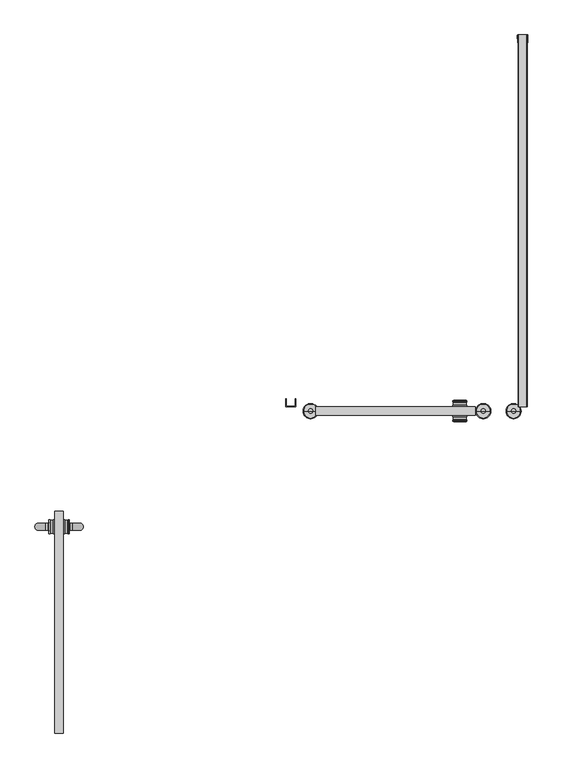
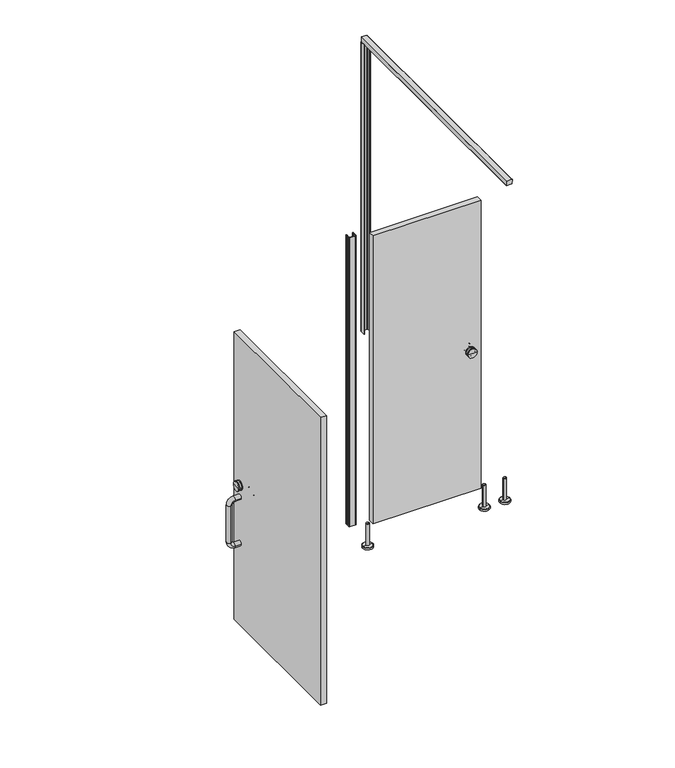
"""IFC4 building model written with IfcOpenShell, lengths in millimetres: proxy geometry, Partition_EuroStyle-Bradley_Corp-ADA_Alcove_2StandardStall-LOFT : Partition_EuroStyle-Bradley_Corp-ADA_Alcove_2StandardStall-LOFT."""

from ifc_helpers import new_model, si_unit, point, frame, frame_2d, origin, place, context, project, spatial, polyline, circle_curve, ellipse_curve, trimmed, segment, composite_curve, outline, extrude, source, transform, mapped, element, save
from ifc_brep_helpers import plane_surface, cylinder_surface, revolved_surface, advanced_brep


def specialty_equipment_a1a55d40(model_context):
    return source(origin(), model_context, "Body", "SolidModel", [
        advanced_brep(
        [(2589.8203255, -1541.9996549, 150.0000008), (2607.8203248, -1541.9996549, 150.0000008), (2607.8203248, -1541.9996549, 12.0000001), (2589.8203255, -1541.9996549, 12.0000001), (2598.8203251, -1541.9996549, 150.0000008), (2567.8203262, -1541.9996549, 0.0), (2629.8203241, -1541.9996549, 0.0), (2598.8203251, -1541.9996549, 0.0), (2567.8203262, -1541.9996549, 10.0000001), (2629.8203241, -1541.9996549, 10.0000001), (2569.8227381, -1541.9996549, 12.0000001), (2627.8179122, -1541.9996549, 12.0000001)],
        [
            (0, 1, circle_curve(frame((2598.8203251, -1541.9996549, 150.0000008), z_axis=(0.0, 0.0, -1.0), x_axis=(1.0, 0.0, 0.0)), 8.9999997)),
            (1, 2),
            (2, 3, circle_curve(frame((2598.8203251, -1541.9996549, 12.0000001), z_axis=(0.0, 0.0, 1.0), x_axis=(1.0, 0.0, 0.0)), 8.9999997)),
            (3, 0),
            (1, 0, circle_curve(frame((2598.8203251, -1541.9996549, 150.0000008), z_axis=(0.0, 0.0, -1.0), x_axis=(1.0, 0.0, 0.0)), 8.9999997)),
            (3, 2, circle_curve(frame((2598.8203251, -1541.9996549, 12.0000001), z_axis=(0.0, 0.0, 1.0), x_axis=(1.0, 0.0, 0.0)), 8.9999997)),
            (4, 1),
            (0, 4),
            (5, 6, circle_curve(frame((2598.8203251, -1541.9996549, 0.0), z_axis=(0.0, 0.0, -1.0), x_axis=(1.0, 0.0, 0.0)), 30.9999989)),
            (6, 7),
            (7, 5),
            (6, 5, circle_curve(frame((2598.8203251, -1541.9996549, 0.0), z_axis=(0.0, 0.0, -1.0), x_axis=(1.0, 0.0, 0.0)), 30.9999989)),
            (8, 9, circle_curve(frame((2598.8203251, -1541.9996549, 10.0000001), z_axis=(0.0, 0.0, -1.0), x_axis=(1.0, 0.0, 0.0)), 30.9999989)),
            (9, 6),
            (5, 8),
            (9, 8, circle_curve(frame((2598.8203251, -1541.9996549, 10.0000001), z_axis=(0.0, 0.0, -1.0), x_axis=(1.0, 0.0, 0.0)), 30.9999989)),
            (10, 11, circle_curve(frame((2598.8203251, -1541.9996549, 12.0000001), z_axis=(0.0, 0.0, -1.0), x_axis=(1.0, 0.0, 0.0)), 28.997587)),
            (11, 9),
            (8, 10),
            (11, 10, circle_curve(frame((2598.8203251, -1541.9996549, 12.0000001), z_axis=(0.0, 0.0, -1.0), x_axis=(1.0, 0.0, 0.0)), 28.997587)),
            (2, 11),
            (10, 3),
        ],
        [
            cylinder_surface(frame((2598.8203251, -1541.9996549, 0.0), z_axis=(0.0, 0.0, 1.0), x_axis=(1.0, 0.0, 0.0)), 8.9999997),
            plane_surface(frame((2598.8203251, -1541.9996549, 150.0000008), z_axis=(0.0, 0.0, 1.0), x_axis=(1.0, 0.0, 0.0))),
            plane_surface(frame((2598.8203251, -1541.9996549, 0.0), z_axis=(0.0, 0.0, -1.0), x_axis=(1.0, 0.0, 0.0))),
            cylinder_surface(frame((2598.8203251, -1541.9996549, 0.0), z_axis=(0.0, 0.0, 1.0), x_axis=(1.0, 0.0, 0.0)), 30.9999989),
            revolved_surface(polyline([(2629.8203241, -1541.9996549, 10.0000001), (2627.8179122, -1541.9996549, 12.0000001)]), (2598.8203251, -1541.9996549, 0.0), (0.0, 0.0, 1.0)),
            plane_surface(frame((2598.8203251, -1541.9996549, 12.0000001), z_axis=(0.0, 0.0, 1.0), x_axis=(1.0, 0.0, 0.0))),
        ],
        [
            (0, [[1, 2, 3, 4]]),
            (0, [[5, -4, 6, -2]]),
            (1, [[7, -1, 8]]),
            (1, [[-8, -5, -7]]),
            (2, [[9, 10, 11]]),
            (2, [[12, -11, -10]]),
            (3, [[13, 14, -9, 15]]),
            (3, [[16, -15, -12, -14]]),
            (4, [[17, 18, -13, 19]]),
            (4, [[20, -19, -16, -18]]),
            (5, [[-3, 21, -17, 22]]),
            (5, [[-6, -22, -20, -21]]),
        ],
    ),
        extrude(outline(composite_curve([segment(polyline([(2497.3288796, -1491.4999998), (2498.8274652, -1491.4999998)]), True, "CONTINUOUS"), segment(trimmed(circle_curve(frame_2d((2498.8238978, -1492.4990918)), 0.9990984), [point((2498.8274652, -1491.4999998))], [point((2499.2975504, -1493.3787798))], False, "CARTESIAN"), True, "CONTINUOUS"), segment(polyline([(2499.2975504, -1493.3787798), (2499.1764404, -1500.6424298)]), True, "CONTINUOUS"), segment(trimmed(circle_curve(frame_2d((2498.6588945, -1501.4999449)), 1.0015917), [point((2499.1764404, -1500.6424298))], [point((2499.1475604, -1502.3742398))], False, "CARTESIAN"), True, "CONTINUOUS"), segment(polyline([(2499.1475604, -1502.3742398), (2498.8535049, -1520.0104531)]), True, "CONTINUOUS"), segment(trimmed(circle_curve(frame_2d((2500.8536968, -1519.9997796)), 2.0002204), [point((2498.8535049, -1520.0104531))], [point((2500.8536968, -1522.0))], True, "CARTESIAN"), True, "CONTINUOUS"), segment(polyline([(2500.8536968, -1522.0), (2534.7379958, -1522.0)]), True, "CONTINUOUS"), segment(trimmed(circle_curve(frame_2d((2534.7870154, -1520.0009061)), 1.9996948), [point((2534.7379958, -1522.0))], [point((2536.78671, -1520.0))], True, "CARTESIAN"), True, "CONTINUOUS"), segment(polyline([(2536.78671, -1520.0), (2536.4926587, -1502.3739987)]), True, "CONTINUOUS"), segment(trimmed(circle_curve(frame_2d((2536.9817558, -1501.4999449)), 1.0015917), [point((2536.4926587, -1502.3739987))], [point((2536.4642099, -1500.6424298))], False, "CARTESIAN"), True, "CONTINUOUS"), segment(polyline([(2536.4642099, -1500.6424298), (2536.3430999, -1493.3787798)]), True, "CONTINUOUS"), segment(trimmed(circle_curve(frame_2d((2536.8167525, -1492.4990918)), 0.9990984), [point((2536.3430999, -1493.3787798))], [point((2536.8131851, -1491.4999998))], False, "CARTESIAN"), True, "CONTINUOUS"), segment(polyline([(2536.8131851, -1491.4999998), (2538.3117707, -1491.4999998), (2538.8201098, -1521.97082)]), True, "CONTINUOUS"), segment(trimmed(circle_curve(frame_2d((2536.7909298, -1521.97082)), 2.02918), [point((2538.8201098, -1521.97082))], [point((2536.7909298, -1524.0))], False, "CARTESIAN"), True, "CONTINUOUS"), segment(polyline([(2536.7909298, -1524.0), (2498.8497205, -1524.0)]), True, "CONTINUOUS"), segment(trimmed(circle_curve(frame_2d((2498.8497205, -1521.97082)), 2.02918), [point((2498.8497205, -1524.0))], [point((2496.8205405, -1521.97082))], False, "CARTESIAN"), True, "CONTINUOUS"), segment(polyline([(2496.8205405, -1521.97082), (2497.3288796, -1491.4999998)]), True, "CONTINUOUS")], self_intersect=False)), frame((0.0, 0.0, 150.0), z_axis=(0.0, 0.0, 1.0), x_axis=(1.0, 0.0, 0.0)), (0.0, 0.0, 1.0), 1855.0),
        advanced_brep(
        [(3182.3471564, -1524.0098174, 1050.0), (3239.4971564, -1524.0098174, 1050.0), (3210.9221564, -1524.0098174, 1050.0), (3182.3471564, -1519.2473174, 1050.0), (3239.4971564, -1519.2473174, 1050.0), (3182.3471564, -1500.1973174, 1050.0), (3239.4971564, -1500.1973174, 1050.0), (3239.4971564, -1504.9598174, 1050.0), (3182.3471564, -1504.9598174, 1050.0), (3237.9096564, -1506.5473174, 1050.0), (3183.9346564, -1506.5473174, 1050.0), (3237.9096564, -1517.6598174, 1050.0), (3183.9346564, -1517.6598174, 1050.0), (3210.9221564, -1498.6098174, 1050.0)],
        [
            (0, 1, circle_curve(frame((3210.9221564, -1524.0098174, 1050.0), z_axis=(0.0, -1.0, 0.0), x_axis=(1.0000000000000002, 0.0, 0.0)), 28.575)),
            (1, 2),
            (2, 0),
            (1, 0, circle_curve(frame((3210.9221564, -1524.0098174, 1050.0), z_axis=(0.0, -1.0, 0.0), x_axis=(1.0000000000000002, 0.0, 0.0)), 28.575)),
            (3, 4, circle_curve(frame((3210.9221564, -1519.2473174, 1050.0), z_axis=(0.0, -1.0, 0.0), x_axis=(1.0000000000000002, 0.0, 0.0)), 28.575)),
            (4, 1),
            (0, 3),
            (4, 3, circle_curve(frame((3210.9221564, -1519.2473174, 1050.0), z_axis=(0.0, -1.0, 0.0), x_axis=(1.0000000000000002, 0.0, 0.0)), 28.575)),
            (5, 6, circle_curve(frame((3210.9221564, -1500.1973174, 1050.0), z_axis=(0.0, -1.0, 0.0), x_axis=(1.0000000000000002, 0.0, 0.0)), 28.575)),
            (6, 7),
            (7, 8, circle_curve(frame((3210.9221564, -1504.9598174, 1050.0), z_axis=(0.0, 1.0, 0.0), x_axis=(1.0000000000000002, 0.0, 0.0)), 28.575)),
            (8, 5),
            (6, 5, circle_curve(frame((3210.9221564, -1500.1973174, 1050.0), z_axis=(0.0, -1.0, 0.0), x_axis=(1.0000000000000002, 0.0, 0.0)), 28.575)),
            (8, 7, circle_curve(frame((3210.9221564, -1504.9598174, 1050.0), z_axis=(0.0, 1.0, 0.0), x_axis=(1.0000000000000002, 0.0, 0.0)), 28.575)),
            (7, 9, circle_curve(frame((3239.4971564, -1506.5473174, 1050.0), z_axis=(0.0, 0.0, 1.0), x_axis=(1.0000000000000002, 0.0, 0.0)), 1.5875)),
            (9, 10, circle_curve(frame((3210.9221564, -1506.5473174, 1050.0), z_axis=(0.0, 1.0, 0.0), x_axis=(1.0000000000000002, 0.0, 0.0)), 26.9875)),
            (10, 8, circle_curve(frame((3182.3471564, -1506.5473174, 1050.0), z_axis=(0.0, 0.0, 1.0), x_axis=(-1.0000000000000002, 0.0, 0.0)), 1.5875)),
            (10, 9, circle_curve(frame((3210.9221564, -1506.5473174, 1050.0), z_axis=(0.0, 1.0, 0.0), x_axis=(1.0000000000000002, 0.0, 0.0)), 26.9875)),
            (9, 11),
            (11, 12, circle_curve(frame((3210.9221564, -1517.6598174, 1050.0), z_axis=(0.0, 1.0, 0.0), x_axis=(1.0000000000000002, 0.0, 0.0)), 26.9875)),
            (12, 10),
            (12, 11, circle_curve(frame((3210.9221564, -1517.6598174, 1050.0), z_axis=(0.0, 1.0, 0.0), x_axis=(1.0000000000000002, 0.0, 0.0)), 26.9875)),
            (11, 4, circle_curve(frame((3239.4971564, -1517.6598174, 1050.0), z_axis=(0.0, 0.0, 1.0), x_axis=(1.0000000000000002, 0.0, 0.0)), 1.5875)),
            (3, 12, circle_curve(frame((3182.3471564, -1517.6598174, 1050.0), z_axis=(0.0, 0.0, 1.0), x_axis=(-1.0000000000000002, 0.0, 0.0)), 1.5875)),
            (13, 6, circle_curve(frame((3214.6162798, -1690.0843466, 1050.0), z_axis=(0.0, 0.0, -1.0), x_axis=(1.0000000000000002, 0.0, 0.0)), 191.5101613)),
            (5, 13, circle_curve(frame((3207.2280331, -1690.0843466, 1050.0), z_axis=(0.0, 0.0, -1.0), x_axis=(-1.0000000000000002, 0.0, 0.0)), 191.5101613)),
        ],
        [
            plane_surface(frame((3210.9221564, -1524.0098174, 1050.0), z_axis=(0.0, -1.0, 0.0), x_axis=(1.0, 0.0, 0.0))),
            cylinder_surface(frame((3210.9221564, -1524.0098174, 1050.0), z_axis=(0.0, 1.0000000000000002, 0.0), x_axis=(1.0000000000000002, 0.0, 0.0)), 28.575),
            revolved_surface(trimmed(ellipse_curve(frame((3239.4971564, -1506.5473174, 1050.0), z_axis=(0.0, 0.0, -1.0), x_axis=(1.0000000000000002, 0.0, 0.0)), 1.5875, 1.5875), [point((3237.9096564, -1506.5473174, 1050.0))], [point((3239.4971564, -1504.9598174, 1050.0))], True, "CARTESIAN"), (3210.9221564, -1524.0098174, 1050.0), (0.0, 1.0000000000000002, 0.0)),
            cylinder_surface(frame((3210.9221564, -1524.0098174, 1050.0), z_axis=(0.0, 1.0000000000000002, 0.0), x_axis=(1.0000000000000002, 0.0, 0.0)), 26.9875),
            revolved_surface(trimmed(ellipse_curve(frame((3239.4971564, -1517.6598174, 1050.0), z_axis=(0.0, 0.0, -1.0), x_axis=(1.0000000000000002, 0.0, 0.0)), 1.5875, 1.5875), [point((3239.4971564, -1519.2473174, 1050.0))], [point((3237.9096564, -1517.6598174, 1050.0))], True, "CARTESIAN"), (3210.9221564, -1524.0098174, 1050.0), (0.0, 1.0000000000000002, 0.0)),
            revolved_surface(trimmed(ellipse_curve(frame((3214.6162798, -1690.0843466, 1050.0), z_axis=(0.0, 0.0, 1.0), x_axis=(1.0000000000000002, 0.0, 0.0)), 191.5101613, 191.5101613), [point((3239.4971564, -1500.1973174, 1050.0))], [point((3210.9221564, -1498.6098174, 1050.0))], True, "CARTESIAN"), (3210.9221564, -1524.0098174, 1050.0), (0.0, 1.0000000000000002, 0.0)),
        ],
        [
            (0, [[1, 2, 3]]),
            (0, [[4, -3, -2]]),
            (1, [[5, 6, -1, 7]]),
            (1, [[8, -7, -4, -6]]),
            (1, [[9, 10, 11, 12]]),
            (1, [[13, -12, 14, -10]]),
            (2, [[-11, 15, 16, 17]]),
            (2, [[-14, -17, 18, -15]]),
            (3, [[-16, 19, 20, 21]]),
            (3, [[-18, -21, 22, -19]]),
            (4, [[-20, 23, -5, 24]]),
            (4, [[-22, -24, -8, -23]]),
            (5, [[25, -9, 26]]),
            (5, [[-26, -13, -25]]),
        ],
    ),
        advanced_brep(
        [(3210.9221564, -1560.0098174, 1050.0), (3239.4971564, -1560.0098174, 1050.0), (3182.3471564, -1560.0098174, 1050.0), (3239.4971564, -1564.7723174, 1050.0), (3182.3471564, -1564.7723174, 1050.0), (3182.3471564, -1579.0598174, 1050.0), (3239.4971564, -1579.0598174, 1050.0), (3239.4971564, -1583.8223174, 1050.0), (3182.3471564, -1583.8223174, 1050.0), (3183.9346564, -1577.4723174, 1050.0), (3237.9096564, -1577.4723174, 1050.0), (3183.9346564, -1566.3598174, 1050.0), (3237.9096564, -1566.3598174, 1050.0), (3210.9221564, -1585.4098174, 1050.0)],
        [
            (0, 1),
            (1, 2, circle_curve(frame((3210.9221564, -1560.0098174, 1050.0), z_axis=(0.0, 1.0, 0.0), x_axis=(1.0000000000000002, 0.0, 0.0)), 28.575)),
            (2, 0),
            (2, 1, circle_curve(frame((3210.9221564, -1560.0098174, 1050.0), z_axis=(0.0, 1.0, 0.0), x_axis=(1.0000000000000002, 0.0, 0.0)), 28.575)),
            (1, 3),
            (3, 4, circle_curve(frame((3210.9221564, -1564.7723174, 1050.0), z_axis=(0.0, 1.0, 0.0), x_axis=(1.0000000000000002, 0.0, 0.0)), 28.575)),
            (4, 2),
            (4, 3, circle_curve(frame((3210.9221564, -1564.7723174, 1050.0), z_axis=(0.0, 1.0, 0.0), x_axis=(1.0000000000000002, 0.0, 0.0)), 28.575)),
            (5, 6, circle_curve(frame((3210.9221564, -1579.0598174, 1050.0), z_axis=(0.0, -1.0, 0.0), x_axis=(1.0000000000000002, 0.0, 0.0)), 28.575)),
            (6, 7),
            (7, 8, circle_curve(frame((3210.9221564, -1583.8223174, 1050.0), z_axis=(0.0, 1.0, 0.0), x_axis=(1.0000000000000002, 0.0, 0.0)), 28.575)),
            (8, 5),
            (6, 5, circle_curve(frame((3210.9221564, -1579.0598174, 1050.0), z_axis=(0.0, -1.0, 0.0), x_axis=(1.0000000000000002, 0.0, 0.0)), 28.575)),
            (8, 7, circle_curve(frame((3210.9221564, -1583.8223174, 1050.0), z_axis=(0.0, 1.0, 0.0), x_axis=(1.0000000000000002, 0.0, 0.0)), 28.575)),
            (9, 10, circle_curve(frame((3210.9221564, -1577.4723174, 1050.0), z_axis=(0.0, -1.0, 0.0), x_axis=(1.0000000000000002, 0.0, 0.0)), 26.9875)),
            (10, 6, circle_curve(frame((3239.4971564, -1577.4723174, 1050.0), z_axis=(0.0, 0.0, 1.0), x_axis=(1.0000000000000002, 0.0, 0.0)), 1.5875)),
            (5, 9, circle_curve(frame((3182.3471564, -1577.4723174, 1050.0), z_axis=(0.0, 0.0, 1.0), x_axis=(-1.0000000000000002, 0.0, 0.0)), 1.5875)),
            (10, 9, circle_curve(frame((3210.9221564, -1577.4723174, 1050.0), z_axis=(0.0, -1.0, 0.0), x_axis=(1.0000000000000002, 0.0, 0.0)), 26.9875)),
            (11, 12, circle_curve(frame((3210.9221564, -1566.3598174, 1050.0), z_axis=(0.0, -1.0, 0.0), x_axis=(1.0000000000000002, 0.0, 0.0)), 26.9875)),
            (12, 10),
            (9, 11),
            (12, 11, circle_curve(frame((3210.9221564, -1566.3598174, 1050.0), z_axis=(0.0, -1.0, 0.0), x_axis=(1.0000000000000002, 0.0, 0.0)), 26.9875)),
            (3, 12, circle_curve(frame((3239.4971564, -1566.3598174, 1050.0), z_axis=(0.0, 0.0, 1.0), x_axis=(1.0000000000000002, 0.0, 0.0)), 1.5875)),
            (11, 4, circle_curve(frame((3182.3471564, -1566.3598174, 1050.0), z_axis=(0.0, 0.0, 1.0), x_axis=(-1.0000000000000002, 0.0, 0.0)), 1.5875)),
            (7, 13, circle_curve(frame((3214.6162798, -1393.9352882, 1050.0), z_axis=(0.0, 0.0, -1.0), x_axis=(1.0000000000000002, 0.0, 0.0)), 191.5101613)),
            (13, 8, circle_curve(frame((3207.2280331, -1393.9352882, 1050.0), z_axis=(0.0, 0.0, -1.0), x_axis=(-1.0000000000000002, 0.0, 0.0)), 191.5101613)),
        ],
        [
            plane_surface(frame((3210.9221564, -1560.0098174, 1050.0), z_axis=(0.0, 1.0, 0.0), x_axis=(1.0, 0.0, 0.0))),
            cylinder_surface(frame((3210.9221564, -1560.0098174, 1050.0), z_axis=(0.0, 1.0000000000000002, 0.0), x_axis=(1.0000000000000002, 0.0, 0.0)), 28.575),
            revolved_surface(trimmed(ellipse_curve(frame((3239.4971564, -1577.4723174, 1050.0), z_axis=(0.0, 0.0, -1.0), x_axis=(1.0000000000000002, 0.0, 0.0)), 1.5875, 1.5875), [point((3239.4971564, -1579.0598174, 1050.0))], [point((3237.9096564, -1577.4723174, 1050.0))], True, "CARTESIAN"), (3210.9221564, -1560.0098174, 1050.0), (0.0, 1.0000000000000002, 0.0)),
            cylinder_surface(frame((3210.9221564, -1560.0098174, 1050.0), z_axis=(0.0, 1.0000000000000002, 0.0), x_axis=(1.0000000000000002, 0.0, 0.0)), 26.9875),
            revolved_surface(trimmed(ellipse_curve(frame((3239.4971564, -1566.3598174, 1050.0), z_axis=(0.0, 0.0, -1.0), x_axis=(1.0000000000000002, 0.0, 0.0)), 1.5875, 1.5875), [point((3237.9096564, -1566.3598174, 1050.0))], [point((3239.4971564, -1564.7723174, 1050.0))], True, "CARTESIAN"), (3210.9221564, -1560.0098174, 1050.0), (0.0, 1.0000000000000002, 0.0)),
            revolved_surface(trimmed(ellipse_curve(frame((3214.6162798, -1393.9352882, 1050.0), z_axis=(0.0, 0.0, 1.0), x_axis=(1.0000000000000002, 0.0, 0.0)), 191.5101613, 191.5101613), [point((3210.9221564, -1585.4098174, 1050.0))], [point((3239.4971564, -1583.8223174, 1050.0))], True, "CARTESIAN"), (3210.9221564, -1560.0098174, 1050.0), (0.0, 1.0000000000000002, 0.0)),
        ],
        [
            (0, [[1, 2, 3]]),
            (0, [[-3, 4, -1]]),
            (1, [[-2, 5, 6, 7]]),
            (1, [[-4, -7, 8, -5]]),
            (1, [[9, 10, 11, 12]]),
            (1, [[13, -12, 14, -10]]),
            (2, [[15, 16, -9, 17]]),
            (2, [[18, -17, -13, -16]]),
            (3, [[19, 20, -15, 21]]),
            (3, [[22, -21, -18, -20]]),
            (4, [[-6, 23, -19, 24]]),
            (4, [[-8, -24, -22, -23]]),
            (5, [[-11, 25, 26]]),
            (5, [[-14, -26, -25]]),
        ],
    ),
        extrude(outline(polyline([(2619.3190701, -1523.9894923), (3274.4221564, -1523.9894923), (3274.4221564, -1560.0098174), (2619.3190701, -1560.0098174), (2619.3190701, -1523.9894923)])), frame((0.0, 0.0, 150.0), z_axis=(0.0, 0.0, 1.0), x_axis=(1.0, 0.0, 0.0)), (0.0, 0.0, 1.0), 1846.0),
        extrude(outline(composite_curve([segment(polyline([(3447.7288796, -32.5000002), (3447.2205405, -2.02918)]), True, "CONTINUOUS"), segment(trimmed(circle_curve(frame_2d((3449.2497205, -2.02918)), 2.02918), [point((3447.2205405, -2.02918))], [point((3449.2497205, 0.0))], False, "CARTESIAN"), True, "CONTINUOUS"), segment(polyline([(3449.2497205, 0.0), (3487.1909298, 0.0)]), True, "CONTINUOUS"), segment(trimmed(circle_curve(frame_2d((3487.1909298, -2.02918)), 2.02918), [point((3487.1909298, 0.0))], [point((3489.2201098, -2.02918))], False, "CARTESIAN"), True, "CONTINUOUS"), segment(polyline([(3489.2201098, -2.02918), (3488.7117707, -32.5000002), (3487.2131851, -32.5000002)]), True, "CONTINUOUS"), segment(trimmed(circle_curve(frame_2d((3487.2167525, -31.5009082)), 0.9990984), [point((3487.2131851, -32.5000002))], [point((3486.7430999, -30.6212202))], False, "CARTESIAN"), True, "CONTINUOUS"), segment(polyline([(3486.7430999, -30.6212202), (3486.8642099, -23.3575702)]), True, "CONTINUOUS"), segment(trimmed(circle_curve(frame_2d((3487.3817558, -22.5000551)), 1.0015917), [point((3486.8642099, -23.3575702))], [point((3486.8926587, -21.6260013))], False, "CARTESIAN"), True, "CONTINUOUS"), segment(polyline([(3486.8926587, -21.6260013), (3487.18671, -4.0)]), True, "CONTINUOUS"), segment(trimmed(circle_curve(frame_2d((3485.1870154, -3.9990939)), 1.9996948), [point((3487.18671, -4.0))], [point((3485.1379958, -2.0))], True, "CARTESIAN"), True, "CONTINUOUS"), segment(polyline([(3485.1379958, -2.0), (3451.2536968, -2.0)]), True, "CONTINUOUS"), segment(trimmed(circle_curve(frame_2d((3451.2536968, -4.0002204)), 2.0002204), [point((3451.2536968, -2.0))], [point((3449.2535049, -3.9895469))], True, "CARTESIAN"), True, "CONTINUOUS"), segment(polyline([(3449.2535049, -3.9895469), (3449.5475604, -21.6257602)]), True, "CONTINUOUS"), segment(trimmed(circle_curve(frame_2d((3449.0588945, -22.5000551)), 1.0015917), [point((3449.5475604, -21.6257602))], [point((3449.5764404, -23.3575702))], False, "CARTESIAN"), True, "CONTINUOUS"), segment(polyline([(3449.5764404, -23.3575702), (3449.6975504, -30.6212202)]), True, "CONTINUOUS"), segment(trimmed(circle_curve(frame_2d((3449.2238978, -31.5009082)), 0.9990984), [point((3449.6975504, -30.6212202))], [point((3449.2274652, -32.5000002))], False, "CARTESIAN"), True, "CONTINUOUS"), segment(polyline([(3449.2274652, -32.5000002), (3447.7288796, -32.5000002)]), True, "CONTINUOUS")], self_intersect=False)), frame((0.0, 0.0, 150.0), z_axis=(0.0, 0.0, 1.0), x_axis=(1.0, 0.0, 0.0)), (0.0, 0.0, 1.0), 1855.0),
        extrude(outline(composite_curve([segment(polyline([(2032.9666591, 3450.2203701), (2005.7492965, 3450.6741806)]), True, "CONTINUOUS"), segment(trimmed(circle_curve(frame_2d((2005.762, 3451.4360747)), 0.762), [point((2005.7492965, 3450.6741806))], [point((2005.0, 3451.4360747))], False, "CARTESIAN"), True, "CONTINUOUS"), segment(polyline([(2005.0, 3451.4360747), (2005.0, 3484.9733505)]), True, "CONTINUOUS"), segment(trimmed(circle_curve(frame_2d((2005.79375, 3484.9733505)), 0.79375), [point((2005.0, 3484.9733505))], [point((2005.7805172, 3485.7669902))], False, "CARTESIAN"), True, "CONTINUOUS"), segment(polyline([(2005.7805172, 3485.7669902), (2032.9666591, 3486.2202802)]), True, "CONTINUOUS"), segment(trimmed(circle_curve(frame_2d((2033.0000015, 3484.2205597)), 1.9999985), [point((2032.9666591, 3486.2202802))], [point((2035.0, 3484.2205597))], False, "CARTESIAN"), True, "CONTINUOUS"), segment(polyline([(2035.0, 3484.2205597), (2035.0, 3452.2200907)]), True, "CONTINUOUS"), segment(trimmed(circle_curve(frame_2d((2033.0000015, 3452.2200907)), 1.9999985), [point((2035.0, 3452.2200907))], [point((2032.9666591, 3450.2203701))], False, "CARTESIAN"), True, "CONTINUOUS")], self_intersect=False)), frame((0.0, -1524.0, 0.0), z_axis=(0.0, 1.0, 0.0), x_axis=(0.0, 0.0, 1.0)), (0.0, 0.0, 1.0), 1524.0),
        advanced_brep(
        [(3422.1703255, -1541.9996549, 150.0000008), (3440.1703248, -1541.9996549, 150.0000008), (3440.1703248, -1541.9996549, 12.0000001), (3422.1703255, -1541.9996549, 12.0000001), (3431.1703251, -1541.9996549, 150.0000008), (3400.1703262, -1541.9996549, 0.0), (3462.1703241, -1541.9996549, 0.0), (3431.1703251, -1541.9996549, 0.0), (3400.1703262, -1541.9996549, 10.0000001), (3462.1703241, -1541.9996549, 10.0000001), (3402.1727381, -1541.9996549, 12.0000001), (3460.1679122, -1541.9996549, 12.0000001)],
        [
            (0, 1, circle_curve(frame((3431.1703251, -1541.9996549, 150.0000008), z_axis=(0.0, 0.0, -1.0), x_axis=(1.0, 0.0, 0.0)), 8.9999997)),
            (1, 2),
            (2, 3, circle_curve(frame((3431.1703251, -1541.9996549, 12.0000001), z_axis=(0.0, 0.0, 1.0), x_axis=(1.0, 0.0, 0.0)), 8.9999997)),
            (3, 0),
            (1, 0, circle_curve(frame((3431.1703251, -1541.9996549, 150.0000008), z_axis=(0.0, 0.0, -1.0), x_axis=(1.0, 0.0, 0.0)), 8.9999997)),
            (3, 2, circle_curve(frame((3431.1703251, -1541.9996549, 12.0000001), z_axis=(0.0, 0.0, 1.0), x_axis=(1.0, 0.0, 0.0)), 8.9999997)),
            (4, 1),
            (0, 4),
            (5, 6, circle_curve(frame((3431.1703251, -1541.9996549, 0.0), z_axis=(0.0, 0.0, -1.0), x_axis=(1.0, 0.0, 0.0)), 30.9999989)),
            (6, 7),
            (7, 5),
            (6, 5, circle_curve(frame((3431.1703251, -1541.9996549, 0.0), z_axis=(0.0, 0.0, -1.0), x_axis=(1.0, 0.0, 0.0)), 30.9999989)),
            (8, 9, circle_curve(frame((3431.1703251, -1541.9996549, 10.0000001), z_axis=(0.0, 0.0, -1.0), x_axis=(1.0, 0.0, 0.0)), 30.9999989)),
            (9, 6),
            (5, 8),
            (9, 8, circle_curve(frame((3431.1703251, -1541.9996549, 10.0000001), z_axis=(0.0, 0.0, -1.0), x_axis=(1.0, 0.0, 0.0)), 30.9999989)),
            (10, 11, circle_curve(frame((3431.1703251, -1541.9996549, 12.0000001), z_axis=(0.0, 0.0, -1.0), x_axis=(1.0, 0.0, 0.0)), 28.997587)),
            (11, 9),
            (8, 10),
            (11, 10, circle_curve(frame((3431.1703251, -1541.9996549, 12.0000001), z_axis=(0.0, 0.0, -1.0), x_axis=(1.0, 0.0, 0.0)), 28.997587)),
            (2, 11),
            (10, 3),
        ],
        [
            cylinder_surface(frame((3431.1703251, -1541.9996549, 0.0), z_axis=(0.0, 0.0, 1.0), x_axis=(1.0, 0.0, 0.0)), 8.9999997),
            plane_surface(frame((3431.1703251, -1541.9996549, 150.0000008), z_axis=(0.0, 0.0, 1.0), x_axis=(1.0, 0.0, 0.0))),
            plane_surface(frame((3431.1703251, -1541.9996549, 0.0), z_axis=(0.0, 0.0, -1.0), x_axis=(1.0, 0.0, 0.0))),
            cylinder_surface(frame((3431.1703251, -1541.9996549, 0.0), z_axis=(0.0, 0.0, 1.0), x_axis=(1.0, 0.0, 0.0)), 30.9999989),
            revolved_surface(polyline([(3462.1703241, -1541.9996549, 10.0000001), (3460.1679122, -1541.9996549, 12.0000001)]), (3431.1703251, -1541.9996549, 0.0), (0.0, 0.0, 1.0)),
            plane_surface(frame((3431.1703251, -1541.9996549, 12.0000001), z_axis=(0.0, 0.0, 1.0), x_axis=(1.0, 0.0, 0.0))),
        ],
        [
            (0, [[1, 2, 3, 4]]),
            (0, [[5, -4, 6, -2]]),
            (1, [[7, -1, 8]]),
            (1, [[-8, -5, -7]]),
            (2, [[9, 10, 11]]),
            (2, [[12, -11, -10]]),
            (3, [[13, 14, -9, 15]]),
            (3, [[16, -15, -12, -14]]),
            (4, [[17, 18, -13, 19]]),
            (4, [[20, -19, -16, -18]]),
            (5, [[-3, 21, -17, 22]]),
            (5, [[-6, -22, -20, -21]]),
        ],
    ),
        advanced_brep(
        [(3297.8453255, -1541.9996549, 150.0000008), (3315.8453248, -1541.9996549, 150.0000008), (3315.8453248, -1541.9996549, 12.0000001), (3297.8453255, -1541.9996549, 12.0000001), (3306.8453251, -1541.9996549, 150.0000008), (3275.8453262, -1541.9996549, 0.0), (3337.8453241, -1541.9996549, 0.0), (3306.8453251, -1541.9996549, 0.0), (3275.8453262, -1541.9996549, 10.0000001), (3337.8453241, -1541.9996549, 10.0000001), (3277.8477381, -1541.9996549, 12.0000001), (3335.8429122, -1541.9996549, 12.0000001)],
        [
            (0, 1, circle_curve(frame((3306.8453251, -1541.9996549, 150.0000008), z_axis=(0.0, 0.0, -1.0), x_axis=(1.0, 0.0, 0.0)), 8.9999997)),
            (1, 2),
            (2, 3, circle_curve(frame((3306.8453251, -1541.9996549, 12.0000001), z_axis=(0.0, 0.0, 1.0), x_axis=(1.0, 0.0, 0.0)), 8.9999997)),
            (3, 0),
            (1, 0, circle_curve(frame((3306.8453251, -1541.9996549, 150.0000008), z_axis=(0.0, 0.0, -1.0), x_axis=(1.0, 0.0, 0.0)), 8.9999997)),
            (3, 2, circle_curve(frame((3306.8453251, -1541.9996549, 12.0000001), z_axis=(0.0, 0.0, 1.0), x_axis=(1.0, 0.0, 0.0)), 8.9999997)),
            (4, 1),
            (0, 4),
            (5, 6, circle_curve(frame((3306.8453251, -1541.9996549, 0.0), z_axis=(0.0, 0.0, -1.0), x_axis=(1.0, 0.0, 0.0)), 30.9999989)),
            (6, 7),
            (7, 5),
            (6, 5, circle_curve(frame((3306.8453251, -1541.9996549, 0.0), z_axis=(0.0, 0.0, -1.0), x_axis=(1.0, 0.0, 0.0)), 30.9999989)),
            (8, 9, circle_curve(frame((3306.8453251, -1541.9996549, 10.0000001), z_axis=(0.0, 0.0, -1.0), x_axis=(1.0, 0.0, 0.0)), 30.9999989)),
            (9, 6),
            (5, 8),
            (9, 8, circle_curve(frame((3306.8453251, -1541.9996549, 10.0000001), z_axis=(0.0, 0.0, -1.0), x_axis=(1.0, 0.0, 0.0)), 30.9999989)),
            (10, 11, circle_curve(frame((3306.8453251, -1541.9996549, 12.0000001), z_axis=(0.0, 0.0, -1.0), x_axis=(1.0, 0.0, 0.0)), 28.997587)),
            (11, 9),
            (8, 10),
            (11, 10, circle_curve(frame((3306.8453251, -1541.9996549, 12.0000001), z_axis=(0.0, 0.0, -1.0), x_axis=(1.0, 0.0, 0.0)), 28.997587)),
            (2, 11),
            (10, 3),
        ],
        [
            cylinder_surface(frame((3306.8453251, -1541.9996549, 0.0), z_axis=(0.0, 0.0, 1.0), x_axis=(1.0, 0.0, 0.0)), 8.9999997),
            plane_surface(frame((3306.8453251, -1541.9996549, 150.0000008), z_axis=(0.0, 0.0, 1.0), x_axis=(1.0, 0.0, 0.0))),
            plane_surface(frame((3306.8453251, -1541.9996549, 0.0), z_axis=(0.0, 0.0, -1.0), x_axis=(1.0, 0.0, 0.0))),
            cylinder_surface(frame((3306.8453251, -1541.9996549, 0.0), z_axis=(0.0, 0.0, 1.0), x_axis=(1.0, 0.0, 0.0)), 30.9999989),
            revolved_surface(polyline([(3337.8453241, -1541.9996549, 10.0000001), (3335.8429122, -1541.9996549, 12.0000001)]), (3306.8453251, -1541.9996549, 0.0), (0.0, 0.0, 1.0)),
            plane_surface(frame((3306.8453251, -1541.9996549, 12.0000001), z_axis=(0.0, 0.0, 1.0), x_axis=(1.0, 0.0, 0.0))),
        ],
        [
            (0, [[1, 2, 3, 4]]),
            (0, [[5, -4, 6, -2]]),
            (1, [[7, -1, 8]]),
            (1, [[-8, -5, -7]]),
            (2, [[9, 10, 11]]),
            (2, [[12, -11, -10]]),
            (3, [[13, 14, -9, 15]]),
            (3, [[16, -15, -12, -14]]),
            (4, [[17, 18, -13, 19]]),
            (4, [[20, -19, -16, -18]]),
            (5, [[-3, 21, -17, 22]]),
            (5, [[-6, -22, -20, -21]]),
        ],
    ),
        advanced_brep(
        [(1549.4, -2031.8001485, 975.0), (1549.4, -2001.8001485, 975.0), (1549.4, -2031.8001485, 679.0), (1549.4, -2001.8001485, 679.0), (1513.4, -2001.8001485, 975.0), (1513.4, -2031.8001485, 975.0), (1483.4, -2001.8001485, 945.0), (1483.4, -2001.8001485, 709.0), (1483.4, -2031.8001485, 709.0), (1483.4, -2031.8001485, 945.0), (1513.4, -2001.8001485, 679.0), (1513.4, -2031.8001485, 679.0)],
        [
            (0, 1, circle_curve(frame((1549.4, -2016.8001485, 975.0), z_axis=(1.0, 0.0, 0.0), x_axis=(0.0, 1.0, 0.0)), 15.0)),
            (1, 0, circle_curve(frame((1549.4, -2016.8001485, 975.0), z_axis=(1.0, 0.0, 0.0), x_axis=(0.0, 1.0, 0.0)), 15.0)),
            (2, 3, circle_curve(frame((1549.4, -2016.8001485, 679.0), z_axis=(1.0, 0.0, 0.0), x_axis=(0.0, 1.0, 0.0)), 15.0)),
            (3, 2, circle_curve(frame((1549.4, -2016.8001485, 679.0), z_axis=(1.0, 0.0, 0.0), x_axis=(0.0, 1.0, 0.0)), 15.0)),
            (1, 4),
            (4, 5, circle_curve(frame((1513.4, -2016.8001485, 975.0), z_axis=(1.0, 0.0, 0.0), x_axis=(0.0, 1.0, 0.0)), 15.0)),
            (5, 0),
            (5, 4, circle_curve(frame((1513.4, -2016.8001485, 975.0), z_axis=(1.0, 0.0, 0.0), x_axis=(0.0, 1.0, 0.0)), 15.0)),
            (6, 7),
            (7, 8, circle_curve(frame((1483.4, -2016.8001485, 709.0), z_axis=(0.0, 0.0, 1.0), x_axis=(0.0, 1.0, 0.0)), 15.0)),
            (8, 9),
            (9, 6, circle_curve(frame((1483.4, -2016.8001485, 945.0), z_axis=(0.0, 0.0, -1.0), x_axis=(0.0, 1.0, 0.0)), 15.0)),
            (8, 7, circle_curve(frame((1483.4, -2016.8001485, 709.0), z_axis=(0.0, 0.0, 1.0), x_axis=(0.0, 1.0, 0.0)), 15.0)),
            (6, 9, circle_curve(frame((1483.4, -2016.8001485, 945.0), z_axis=(0.0, 0.0, -1.0), x_axis=(0.0, 1.0, 0.0)), 15.0)),
            (10, 3),
            (2, 11),
            (11, 10, circle_curve(frame((1513.4, -2016.8001485, 679.0), z_axis=(1.0, 0.0, 0.0), x_axis=(0.0, 1.0, 0.0)), 15.0)),
            (10, 11, circle_curve(frame((1513.4, -2016.8001485, 679.0), z_axis=(1.0, 0.0, 0.0), x_axis=(0.0, 1.0, 0.0)), 15.0)),
            (9, 5, circle_curve(frame((1513.4, -2031.8001485, 945.0), z_axis=(0.0, 1.0, 0.0), x_axis=(0.0, 0.0, 1.0)), 30.0)),
            (4, 6, circle_curve(frame((1513.4, -2001.8001485, 945.0), z_axis=(0.0, -1.0, 0.0), x_axis=(0.0, 0.0, 1.0)), 30.0)),
            (11, 8, circle_curve(frame((1513.4, -2031.8001485, 709.0), z_axis=(0.0, 1.0, 0.0), x_axis=(-1.0, 0.0, 0.0)), 30.0)),
            (7, 10, circle_curve(frame((1513.4, -2001.8001485, 709.0), z_axis=(0.0, -1.0, 0.0), x_axis=(-1.0, 0.0, 0.0)), 30.0)),
        ],
        [
            plane_surface(frame((1549.4, -2016.8001485, 975.0), z_axis=(1.0, 0.0, 0.0), x_axis=(0.0, 1.0, 0.0))),
            plane_surface(frame((1549.4, -2016.8001485, 679.0), z_axis=(1.0, 0.0, 0.0), x_axis=(0.0, 1.0, 0.0))),
            cylinder_surface(frame((1549.4, -2016.8001485, 975.0), z_axis=(1.0, 0.0, 0.0), x_axis=(0.0, 1.0, 0.0)), 15.0),
            cylinder_surface(frame((1483.4, -2016.8001485, 945.0), z_axis=(0.0, 0.0, 1.0), x_axis=(0.0, 1.0, 0.0)), 15.0),
            cylinder_surface(frame((1513.4, -2016.8001485, 679.0), z_axis=(-1.0, 0.0, 0.0), x_axis=(0.0, 1.0, 0.0)), 15.0),
            revolved_surface(trimmed(ellipse_curve(frame((1513.4, -2016.8001485, 975.0), z_axis=(-1.0, 0.0, 0.0), x_axis=(0.0, 1.0, 0.0)), 15.0, 15.0), [point((1513.4, -2031.8001485, 975.0))], [point((1513.4, -2001.8001485, 975.0))], True, "CARTESIAN"), (1513.4, -2016.8001485, 945.0), (0.0, 1.0, 0.0)),
            revolved_surface(trimmed(ellipse_curve(frame((1513.4, -2016.8001485, 975.0), z_axis=(-1.0, 0.0, 0.0), x_axis=(0.0, 1.0, 0.0)), 15.0, 15.0), [point((1513.4, -2001.8001485, 975.0))], [point((1513.4, -2031.8001485, 975.0))], True, "CARTESIAN"), (1513.4, -2016.8001485, 945.0), (0.0, 1.0, 0.0)),
            revolved_surface(trimmed(ellipse_curve(frame((1483.4, -2016.8001485, 709.0), z_axis=(0.0, 0.0, -1.0), x_axis=(0.0, 1.0, 0.0)), 15.0, 15.0), [point((1483.4, -2031.8001485, 709.0))], [point((1483.4, -2001.8001485, 709.0))], True, "CARTESIAN"), (1513.4, -2016.8001485, 709.0), (0.0, 1.0, 0.0)),
            revolved_surface(trimmed(ellipse_curve(frame((1483.4, -2016.8001485, 709.0), z_axis=(0.0, 0.0, -1.0), x_axis=(0.0, 1.0, 0.0)), 15.0, 15.0), [point((1483.4, -2001.8001485, 709.0))], [point((1483.4, -2031.8001485, 709.0))], True, "CARTESIAN"), (1513.4, -2016.8001485, 709.0), (0.0, 1.0, 0.0)),
        ],
        [
            (0, [[1, 2]]),
            (1, [[3, 4]]),
            (2, [[5, 6, 7, -2]]),
            (2, [[-7, 8, -5, -1]]),
            (3, [[9, 10, 11, 12]]),
            (3, [[-11, 13, -9, 14]]),
            (4, [[15, -3, 16, 17]]),
            (4, [[-16, -4, -15, 18]]),
            (5, [[-12, 19, -6, 20]]),
            (6, [[-14, -20, -8, -19]]),
            (7, [[-17, 21, -10, 22]]),
            (8, [[-18, -22, -13, -21]]),
        ],
    ),
        advanced_brep(
        [(1585.4203251, -2031.8001485, 975.0), (1585.4203251, -2001.8001485, 975.0), (1585.4203251, -2031.8001485, 679.0), (1585.4203251, -2001.8001485, 679.0), (1621.4203251, -2031.8001485, 975.0), (1621.4203251, -2001.8001485, 975.0), (1651.4203251, -2001.8001485, 945.0), (1651.4203251, -2031.8001485, 945.0), (1651.4203251, -2031.8001485, 709.0), (1651.4203251, -2001.8001485, 709.0), (1621.4203251, -2001.8001485, 679.0), (1621.4203251, -2031.8001485, 679.0)],
        [
            (0, 1, circle_curve(frame((1585.4203251, -2016.8001485, 975.0), z_axis=(-1.0, 0.0, 0.0), x_axis=(0.0, 1.0, 0.0)), 15.0)),
            (1, 0, circle_curve(frame((1585.4203251, -2016.8001485, 975.0), z_axis=(-1.0, 0.0, 0.0), x_axis=(0.0, 1.0, 0.0)), 15.0)),
            (2, 3, circle_curve(frame((1585.4203251, -2016.8001485, 679.0), z_axis=(-1.0, 0.0, 0.0), x_axis=(0.0, 1.0, 0.0)), 15.0)),
            (3, 2, circle_curve(frame((1585.4203251, -2016.8001485, 679.0), z_axis=(-1.0, 0.0, 0.0), x_axis=(0.0, 1.0, 0.0)), 15.0)),
            (0, 4),
            (4, 5, circle_curve(frame((1621.4203251, -2016.8001485, 975.0), z_axis=(-1.0, 0.0, 0.0), x_axis=(0.0, 1.0, 0.0)), 15.0)),
            (5, 1),
            (5, 4, circle_curve(frame((1621.4203251, -2016.8001485, 975.0), z_axis=(-1.0, 0.0, 0.0), x_axis=(0.0, 1.0, 0.0)), 15.0)),
            (6, 7, circle_curve(frame((1651.4203251, -2016.8001485, 945.0), z_axis=(0.0, 0.0, -1.0), x_axis=(0.0, 1.0, 0.0)), 15.0)),
            (7, 8),
            (8, 9, circle_curve(frame((1651.4203251, -2016.8001485, 709.0), z_axis=(0.0, 0.0, 1.0), x_axis=(0.0, 1.0, 0.0)), 15.0)),
            (9, 6),
            (7, 6, circle_curve(frame((1651.4203251, -2016.8001485, 945.0), z_axis=(0.0, 0.0, -1.0), x_axis=(0.0, 1.0, 0.0)), 15.0)),
            (9, 8, circle_curve(frame((1651.4203251, -2016.8001485, 709.0), z_axis=(0.0, 0.0, 1.0), x_axis=(0.0, 1.0, 0.0)), 15.0)),
            (10, 11, circle_curve(frame((1621.4203251, -2016.8001485, 679.0), z_axis=(-1.0, 0.0, 0.0), x_axis=(0.0, 1.0, 0.0)), 15.0)),
            (11, 2),
            (3, 10),
            (11, 10, circle_curve(frame((1621.4203251, -2016.8001485, 679.0), z_axis=(-1.0, 0.0, 0.0), x_axis=(0.0, 1.0, 0.0)), 15.0)),
            (6, 5, circle_curve(frame((1621.4203251, -2001.8001485, 945.0), z_axis=(0.0, -1.0, 0.0), x_axis=(0.0, 0.0, 1.0)), 30.0)),
            (4, 7, circle_curve(frame((1621.4203251, -2031.8001485, 945.0), z_axis=(0.0, 1.0, 0.0), x_axis=(0.0, 0.0, 1.0)), 30.0)),
            (10, 9, circle_curve(frame((1621.4203251, -2001.8001485, 709.0), z_axis=(0.0, -1.0, 0.0), x_axis=(1.0, 0.0, 0.0)), 30.0)),
            (8, 11, circle_curve(frame((1621.4203251, -2031.8001485, 709.0), z_axis=(0.0, 1.0, 0.0), x_axis=(1.0, 0.0, 0.0)), 30.0)),
        ],
        [
            plane_surface(frame((1585.4203251, -2016.8001485, 975.0), z_axis=(-1.0, 0.0, 0.0), x_axis=(0.0, 1.0, 0.0))),
            plane_surface(frame((1585.4203251, -2016.8001485, 679.0), z_axis=(-1.0, 0.0, 0.0), x_axis=(0.0, 1.0, 0.0))),
            cylinder_surface(frame((1585.4203251, -2016.8001485, 975.0), z_axis=(-1.0, 0.0, 0.0), x_axis=(0.0, 1.0, 0.0)), 15.0),
            cylinder_surface(frame((1651.4203251, -2016.8001485, 945.0), z_axis=(0.0, 0.0, 1.0), x_axis=(0.0, 1.0, 0.0)), 15.0),
            cylinder_surface(frame((1621.4203251, -2016.8001485, 679.0), z_axis=(1.0, 0.0, 0.0), x_axis=(0.0, 1.0, 0.0)), 15.0),
            revolved_surface(trimmed(ellipse_curve(frame((1621.4203251, -2016.8001485, 975.0), z_axis=(-1.0, 0.0, 0.0), x_axis=(0.0, 1.0, 0.0)), 15.0, 15.0), [point((1621.4203251, -2031.8001485, 975.0))], [point((1621.4203251, -2001.8001485, 975.0))], True, "CARTESIAN"), (1621.4203251, -2016.8001485, 945.0), (0.0, 1.0, 0.0)),
            revolved_surface(trimmed(ellipse_curve(frame((1621.4203251, -2016.8001485, 975.0), z_axis=(-1.0, 0.0, 0.0), x_axis=(0.0, 1.0, 0.0)), 15.0, 15.0), [point((1621.4203251, -2001.8001485, 975.0))], [point((1621.4203251, -2031.8001485, 975.0))], True, "CARTESIAN"), (1621.4203251, -2016.8001485, 945.0), (0.0, 1.0, 0.0)),
            revolved_surface(trimmed(ellipse_curve(frame((1651.4203251, -2016.8001485, 709.0), z_axis=(0.0, 0.0, 1.0), x_axis=(0.0, 1.0, 0.0)), 15.0, 15.0), [point((1651.4203251, -2031.8001485, 709.0))], [point((1651.4203251, -2001.8001485, 709.0))], True, "CARTESIAN"), (1621.4203251, -2016.8001485, 709.0), (0.0, 1.0, 0.0)),
            revolved_surface(trimmed(ellipse_curve(frame((1651.4203251, -2016.8001485, 709.0), z_axis=(0.0, 0.0, 1.0), x_axis=(0.0, 1.0, 0.0)), 15.0, 15.0), [point((1651.4203251, -2001.8001485, 709.0))], [point((1651.4203251, -2031.8001485, 709.0))], True, "CARTESIAN"), (1621.4203251, -2016.8001485, 709.0), (0.0, 1.0, 0.0)),
        ],
        [
            (0, [[1, 2]]),
            (1, [[3, 4]]),
            (2, [[-1, 5, 6, 7]]),
            (2, [[-2, -7, 8, -5]]),
            (3, [[9, 10, 11, 12]]),
            (3, [[13, -12, 14, -10]]),
            (4, [[15, 16, -4, 17]]),
            (4, [[18, -17, -3, -16]]),
            (5, [[19, -6, 20, -9]]),
            (6, [[-20, -8, -19, -13]]),
            (7, [[21, -11, 22, -15]]),
            (8, [[-22, -14, -21, -18]]),
        ],
    ),
        advanced_brep(
        [(1549.4203251, -2045.3751485, 1050.0), (1549.4203251, -1988.2251485, 1050.0), (1549.4203251, -2016.8001485, 1050.0), (1544.6578251, -2045.3751485, 1050.0), (1544.6578251, -1988.2251485, 1050.0), (1525.6078251, -2045.3751485, 1050.0), (1525.6078251, -1988.2251485, 1050.0), (1530.3703251, -1988.2251485, 1050.0), (1530.3703251, -2045.3751485, 1050.0), (1531.9578251, -1989.8126485, 1050.0), (1531.9578251, -2043.7876485, 1050.0), (1543.0703251, -1989.8126485, 1050.0), (1543.0703251, -2043.7876485, 1050.0), (1524.0203251, -2016.8001485, 1050.0)],
        [
            (0, 1, circle_curve(frame((1549.4203251, -2016.8001485, 1050.0), z_axis=(1.0, 0.0, 0.0), x_axis=(0.0, 1.0, 0.0)), 28.575)),
            (1, 2),
            (2, 0),
            (1, 0, circle_curve(frame((1549.4203251, -2016.8001485, 1050.0), z_axis=(1.0, 0.0, 0.0), x_axis=(0.0, 1.0, 0.0)), 28.575)),
            (3, 4, circle_curve(frame((1544.6578251, -2016.8001485, 1050.0), z_axis=(1.0, 0.0, 0.0), x_axis=(0.0, 1.0, 0.0)), 28.575)),
            (4, 1),
            (0, 3),
            (4, 3, circle_curve(frame((1544.6578251, -2016.8001485, 1050.0), z_axis=(1.0, 0.0, 0.0), x_axis=(0.0, 1.0, 0.0)), 28.575)),
            (5, 6, circle_curve(frame((1525.6078251, -2016.8001485, 1050.0), z_axis=(1.0, 0.0, 0.0), x_axis=(0.0, 1.0, 0.0)), 28.575)),
            (6, 7),
            (7, 8, circle_curve(frame((1530.3703251, -2016.8001485, 1050.0), z_axis=(-1.0, 0.0, 0.0), x_axis=(0.0, 1.0, 0.0)), 28.575)),
            (8, 5),
            (6, 5, circle_curve(frame((1525.6078251, -2016.8001485, 1050.0), z_axis=(1.0, 0.0, 0.0), x_axis=(0.0, 1.0, 0.0)), 28.575)),
            (8, 7, circle_curve(frame((1530.3703251, -2016.8001485, 1050.0), z_axis=(-1.0, 0.0, 0.0), x_axis=(0.0, 1.0, 0.0)), 28.575)),
            (7, 9, circle_curve(frame((1531.9578251, -1988.2251485, 1050.0), z_axis=(0.0, 0.0, 1.0), x_axis=(0.0, 1.0, 0.0)), 1.5875)),
            (9, 10, circle_curve(frame((1531.9578251, -2016.8001485, 1050.0), z_axis=(-1.0, 0.0, 0.0), x_axis=(0.0, 1.0, 0.0)), 26.9875)),
            (10, 8, circle_curve(frame((1531.9578251, -2045.3751485, 1050.0), z_axis=(0.0, 0.0, 1.0), x_axis=(0.0, -1.0, 0.0)), 1.5875)),
            (10, 9, circle_curve(frame((1531.9578251, -2016.8001485, 1050.0), z_axis=(-1.0, 0.0, 0.0), x_axis=(0.0, 1.0, 0.0)), 26.9875)),
            (9, 11),
            (11, 12, circle_curve(frame((1543.0703251, -2016.8001485, 1050.0), z_axis=(-1.0, 0.0, 0.0), x_axis=(0.0, 1.0, 0.0)), 26.9875)),
            (12, 10),
            (12, 11, circle_curve(frame((1543.0703251, -2016.8001485, 1050.0), z_axis=(-1.0, 0.0, 0.0), x_axis=(0.0, 1.0, 0.0)), 26.9875)),
            (11, 4, circle_curve(frame((1543.0703251, -1988.2251485, 1050.0), z_axis=(0.0, 0.0, 1.0), x_axis=(0.0, 1.0, 0.0)), 1.5875)),
            (3, 12, circle_curve(frame((1543.0703251, -2045.3751485, 1050.0), z_axis=(0.0, 0.0, 1.0), x_axis=(0.0, -1.0, 0.0)), 1.5875)),
            (13, 6, circle_curve(frame((1715.4948544, -2013.1060251, 1050.0), z_axis=(0.0, 0.0, -1.0), x_axis=(0.0, 1.0, 0.0)), 191.5101613)),
            (5, 13, circle_curve(frame((1715.4948544, -2020.4942719, 1050.0), z_axis=(0.0, 0.0, -1.0), x_axis=(0.0, -1.0, 0.0)), 191.5101613)),
        ],
        [
            plane_surface(frame((1549.4203251, -2016.8001485, 1050.0), z_axis=(1.0, 0.0, 0.0), x_axis=(0.0, 1.0, 0.0))),
            cylinder_surface(frame((1549.4203251, -2016.8001485, 1050.0), z_axis=(-1.0, 0.0, 0.0), x_axis=(0.0, 1.0, 0.0)), 28.575),
            revolved_surface(trimmed(ellipse_curve(frame((1531.9578251, -1988.2251485, 1050.0), z_axis=(0.0, 0.0, -1.0), x_axis=(0.0, 1.0, 0.0)), 1.5875, 1.5875), [point((1531.9578251, -1989.8126485, 1050.0))], [point((1530.3703251, -1988.2251485, 1050.0))], True, "CARTESIAN"), (1549.4203251, -2016.8001485, 1050.0), (-1.0, 0.0, 0.0)),
            cylinder_surface(frame((1549.4203251, -2016.8001485, 1050.0), z_axis=(-1.0, 0.0, 0.0), x_axis=(0.0, 1.0, 0.0)), 26.9875),
            revolved_surface(trimmed(ellipse_curve(frame((1543.0703251, -1988.2251485, 1050.0), z_axis=(0.0, 0.0, -1.0), x_axis=(0.0, 1.0, 0.0)), 1.5875, 1.5875), [point((1544.6578251, -1988.2251485, 1050.0))], [point((1543.0703251, -1989.8126485, 1050.0))], True, "CARTESIAN"), (1549.4203251, -2016.8001485, 1050.0), (-1.0, 0.0, 0.0)),
            revolved_surface(trimmed(ellipse_curve(frame((1715.4948544, -2013.1060251, 1050.0), z_axis=(0.0, 0.0, 1.0), x_axis=(0.0, 1.0, 0.0)), 191.5101613, 191.5101613), [point((1525.6078251, -1988.2251485, 1050.0))], [point((1524.0203251, -2016.8001485, 1050.0))], True, "CARTESIAN"), (1549.4203251, -2016.8001485, 1050.0), (-1.0, 0.0, 0.0)),
        ],
        [
            (0, [[1, 2, 3]]),
            (0, [[4, -3, -2]]),
            (1, [[5, 6, -1, 7]]),
            (1, [[8, -7, -4, -6]]),
            (1, [[9, 10, 11, 12]]),
            (1, [[13, -12, 14, -10]]),
            (2, [[-11, 15, 16, 17]]),
            (2, [[-14, -17, 18, -15]]),
            (3, [[-16, 19, 20, 21]]),
            (3, [[-18, -21, 22, -19]]),
            (4, [[-20, 23, -5, 24]]),
            (4, [[-22, -24, -8, -23]]),
            (5, [[25, -9, 26]]),
            (5, [[-26, -13, -25]]),
        ],
    ),
        advanced_brep(
        [(1585.4203251, -2016.8001485, 1050.0), (1585.4203251, -1988.2251485, 1050.0), (1585.4203251, -2045.3751485, 1050.0), (1590.1828251, -1988.2251485, 1050.0), (1590.1828251, -2045.3751485, 1050.0), (1604.4703251, -2045.3751485, 1050.0), (1604.4703251, -1988.2251485, 1050.0), (1609.2328251, -1988.2251485, 1050.0), (1609.2328251, -2045.3751485, 1050.0), (1602.8828251, -2043.7876485, 1050.0), (1602.8828251, -1989.8126485, 1050.0), (1591.7703251, -2043.7876485, 1050.0), (1591.7703251, -1989.8126485, 1050.0), (1610.8203251, -2016.8001485, 1050.0)],
        [
            (0, 1),
            (1, 2, circle_curve(frame((1585.4203251, -2016.8001485, 1050.0), z_axis=(-1.0, 0.0, 0.0), x_axis=(0.0, 1.0, 0.0)), 28.575)),
            (2, 0),
            (2, 1, circle_curve(frame((1585.4203251, -2016.8001485, 1050.0), z_axis=(-1.0, 0.0, 0.0), x_axis=(0.0, 1.0, 0.0)), 28.575)),
            (1, 3),
            (3, 4, circle_curve(frame((1590.1828251, -2016.8001485, 1050.0), z_axis=(-1.0, 0.0, 0.0), x_axis=(0.0, 1.0, 0.0)), 28.575)),
            (4, 2),
            (4, 3, circle_curve(frame((1590.1828251, -2016.8001485, 1050.0), z_axis=(-1.0, 0.0, 0.0), x_axis=(0.0, 1.0, 0.0)), 28.575)),
            (5, 6, circle_curve(frame((1604.4703251, -2016.8001485, 1050.0), z_axis=(1.0, 0.0, 0.0), x_axis=(0.0, 1.0, 0.0)), 28.575)),
            (6, 7),
            (7, 8, circle_curve(frame((1609.2328251, -2016.8001485, 1050.0), z_axis=(-1.0, 0.0, 0.0), x_axis=(0.0, 1.0, 0.0)), 28.575)),
            (8, 5),
            (6, 5, circle_curve(frame((1604.4703251, -2016.8001485, 1050.0), z_axis=(1.0, 0.0, 0.0), x_axis=(0.0, 1.0, 0.0)), 28.575)),
            (8, 7, circle_curve(frame((1609.2328251, -2016.8001485, 1050.0), z_axis=(-1.0, 0.0, 0.0), x_axis=(0.0, 1.0, 0.0)), 28.575)),
            (9, 10, circle_curve(frame((1602.8828251, -2016.8001485, 1050.0), z_axis=(1.0, 0.0, 0.0), x_axis=(0.0, 1.0, 0.0)), 26.9875)),
            (10, 6, circle_curve(frame((1602.8828251, -1988.2251485, 1050.0), z_axis=(0.0, 0.0, 1.0), x_axis=(0.0, 1.0, 0.0)), 1.5875)),
            (5, 9, circle_curve(frame((1602.8828251, -2045.3751485, 1050.0), z_axis=(0.0, 0.0, 1.0), x_axis=(0.0, -1.0, 0.0)), 1.5875)),
            (10, 9, circle_curve(frame((1602.8828251, -2016.8001485, 1050.0), z_axis=(1.0, 0.0, 0.0), x_axis=(0.0, 1.0, 0.0)), 26.9875)),
            (11, 12, circle_curve(frame((1591.7703251, -2016.8001485, 1050.0), z_axis=(1.0, 0.0, 0.0), x_axis=(0.0, 1.0, 0.0)), 26.9875)),
            (12, 10),
            (9, 11),
            (12, 11, circle_curve(frame((1591.7703251, -2016.8001485, 1050.0), z_axis=(1.0, 0.0, 0.0), x_axis=(0.0, 1.0, 0.0)), 26.9875)),
            (3, 12, circle_curve(frame((1591.7703251, -1988.2251485, 1050.0), z_axis=(0.0, 0.0, 1.0), x_axis=(0.0, 1.0, 0.0)), 1.5875)),
            (11, 4, circle_curve(frame((1591.7703251, -2045.3751485, 1050.0), z_axis=(0.0, 0.0, 1.0), x_axis=(0.0, -1.0, 0.0)), 1.5875)),
            (7, 13, circle_curve(frame((1419.3457959, -2013.1060251, 1050.0), z_axis=(0.0, 0.0, -1.0), x_axis=(0.0, 1.0, 0.0)), 191.5101613)),
            (13, 8, circle_curve(frame((1419.3457959, -2020.4942719, 1050.0), z_axis=(0.0, 0.0, -1.0), x_axis=(0.0, -1.0, 0.0)), 191.5101613)),
        ],
        [
            plane_surface(frame((1585.4203251, -2016.8001485, 1050.0), z_axis=(-1.0, 0.0, 0.0), x_axis=(0.0, 1.0, 0.0))),
            cylinder_surface(frame((1585.4203251, -2016.8001485, 1050.0), z_axis=(-1.0, 0.0, 0.0), x_axis=(0.0, 1.0, 0.0)), 28.575),
            revolved_surface(trimmed(ellipse_curve(frame((1602.8828251, -1988.2251485, 1050.0), z_axis=(0.0, 0.0, -1.0), x_axis=(0.0, 1.0, 0.0)), 1.5875, 1.5875), [point((1604.4703251, -1988.2251485, 1050.0))], [point((1602.8828251, -1989.8126485, 1050.0))], True, "CARTESIAN"), (1585.4203251, -2016.8001485, 1050.0), (-1.0, 0.0, 0.0)),
            cylinder_surface(frame((1585.4203251, -2016.8001485, 1050.0), z_axis=(-1.0, 0.0, 0.0), x_axis=(0.0, 1.0, 0.0)), 26.9875),
            revolved_surface(trimmed(ellipse_curve(frame((1591.7703251, -1988.2251485, 1050.0), z_axis=(0.0, 0.0, -1.0), x_axis=(0.0, 1.0, 0.0)), 1.5875, 1.5875), [point((1591.7703251, -1989.8126485, 1050.0))], [point((1590.1828251, -1988.2251485, 1050.0))], True, "CARTESIAN"), (1585.4203251, -2016.8001485, 1050.0), (-1.0, 0.0, 0.0)),
            revolved_surface(trimmed(ellipse_curve(frame((1419.3457959, -2013.1060251, 1050.0), z_axis=(0.0, 0.0, 1.0), x_axis=(0.0, 1.0, 0.0)), 191.5101613, 191.5101613), [point((1610.8203251, -2016.8001485, 1050.0))], [point((1609.2328251, -1988.2251485, 1050.0))], True, "CARTESIAN"), (1585.4203251, -2016.8001485, 1050.0), (-1.0, 0.0, 0.0)),
        ],
        [
            (0, [[1, 2, 3]]),
            (0, [[-3, 4, -1]]),
            (1, [[-2, 5, 6, 7]]),
            (1, [[-4, -7, 8, -5]]),
            (1, [[9, 10, 11, 12]]),
            (1, [[13, -12, 14, -10]]),
            (2, [[15, 16, -9, 17]]),
            (2, [[18, -17, -13, -16]]),
            (3, [[19, 20, -15, 21]]),
            (3, [[22, -21, -18, -20]]),
            (4, [[-6, 23, -19, 24]]),
            (4, [[-8, -24, -22, -23]]),
            (5, [[-11, 25, 26]]),
            (5, [[-14, -26, -25]]),
        ],
    ),
        extrude(outline(polyline([(1549.4, -2862.4032348), (1549.4, -1953.3001485), (1585.4203251, -1953.3001485), (1585.4203251, -2862.4032348), (1549.4, -2862.4032348)])), frame((0.0, 0.0, 150.0), z_axis=(0.0, 0.0, 1.0), x_axis=(1.0, 0.0, 0.0)), (0.0, 0.0, 1.0), 1846.0),
    ])


if __name__ == "__main__":
    model = new_model("IFC4")
    model_context = context("Model", 3, world=origin())
    ifc_project = project(units=[si_unit("LENGTHUNIT", "METRE", prefix="MILLI")], contexts=[model_context])
    site = spatial("IfcSite", under=ifc_project)
    building = spatial("IfcBuilding", under=site)
    placement = place(None, origin())
    specialty_equipment_shape = specialty_equipment_a1a55d40(model_context)
    element("IfcBuildingElementProxy", 1, Name="Partition_EuroStyle-Bradley_Corp-ADA_Alcove_2StandardStall-LOFT : Partition_EuroStyle-Bradley_Corp-ADA_Alcove_2StandardStall-LOFT", ObjectType="Partition_EuroStyle-Bradley_Corp-ADA_Alcove_2StandardStall-LOFT : Partition_EuroStyle-Bradley_Corp-ADA_Alcove_2StandardStall-LOFT", at=placement, inside=building, context=model_context, shape_type="MappedRepresentation", body=[
        mapped(specialty_equipment_shape, transform((0.0, 0.0, 0.0), x_axis=(1.0, 0.0, 0.0), y_axis=(0.0, 1.0, 0.0), z_axis=(0.0, 0.0, 1.0))),
    ])
    save(model, "model.ifc")
